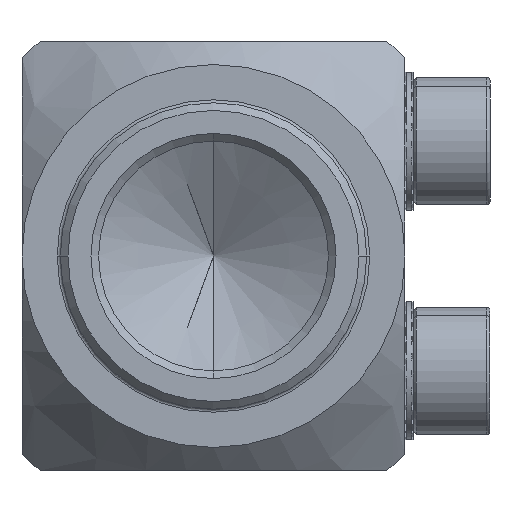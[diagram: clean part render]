
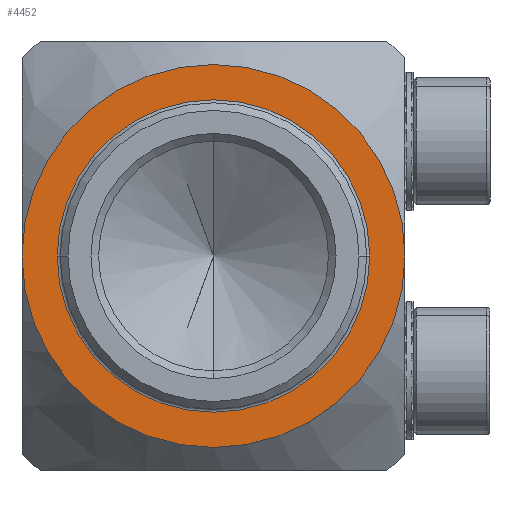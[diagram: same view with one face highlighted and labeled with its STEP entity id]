
A CAD part, front view. The second image highlights one B-rep face of the part: STEP entity #4452.
In plain terms, the highlighted planar face has unit normal (0, -1, 0).
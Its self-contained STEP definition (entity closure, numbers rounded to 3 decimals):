
#271 = DIRECTION ( 'NONE',  ( -1., 0., 0. ) ) ;
#304 = CARTESIAN_POINT ( 'NONE',  ( -12.5, 100., 0. ) ) ;
#654 = CARTESIAN_POINT ( 'NONE',  ( 0., 100., 0. ) ) ;
#1362 = DIRECTION ( 'NONE',  ( -1., 0., 0. ) ) ;
#1423 = ORIENTED_EDGE ( 'NONE', *, *, #4490, .T. ) ;
#1562 = CARTESIAN_POINT ( 'NONE',  ( -10.2, 100., 0. ) ) ;
#2416 = FACE_BOUND ( 'NONE', #6546, .T. ) ;
#2680 = VERTEX_POINT ( 'NONE', #5752 ) ;
#2714 = ORIENTED_EDGE ( 'NONE', *, *, #8371, .T. ) ;
#2859 = DIRECTION ( 'NONE',  ( 0., 1., 0. ) ) ;
#2952 = ORIENTED_EDGE ( 'NONE', *, *, #8425, .T. ) ;
#3122 = DIRECTION ( 'NONE',  ( -1., 0., 0. ) ) ;
#3228 = CARTESIAN_POINT ( 'NONE',  ( 10.2, 100., 0. ) ) ;
#3820 = PLANE ( 'NONE',  #4774 ) ;
#3895 = CARTESIAN_POINT ( 'NONE',  ( 0., 100., 0. ) ) ;
#4452 = ADVANCED_FACE ( 'NONE', ( #2416, #6020 ), #3820, .F. ) ;
#4490 = EDGE_CURVE ( 'NONE', #2680, #6553, #7699, .T. ) ;
#4598 = DIRECTION ( 'NONE',  ( 0., -1., 0. ) ) ;
#4612 = DIRECTION ( 'NONE',  ( -1., 0., 0. ) ) ;
#4774 = AXIS2_PLACEMENT_3D ( 'NONE', #5980, #7432, #3122 ) ;
#4908 = CIRCLE ( 'NONE', #8953, 10.2 ) ;
#5252 = AXIS2_PLACEMENT_3D ( 'NONE', #8915, #4598, #271 ) ;
#5485 = CIRCLE ( 'NONE', #8827, 12.5 ) ;
#5706 = DIRECTION ( 'NONE',  ( 0., 1., 0. ) ) ;
#5752 = CARTESIAN_POINT ( 'NONE',  ( 12.5, 100., 0. ) ) ;
#5980 = CARTESIAN_POINT ( 'NONE',  ( 10., 100., 0. ) ) ;
#6020 = FACE_OUTER_BOUND ( 'NONE', #6957, .T. ) ;
#6546 = EDGE_LOOP ( 'NONE', ( #2952, #2714 ) ) ;
#6553 = VERTEX_POINT ( 'NONE', #304 ) ;
#6957 = EDGE_LOOP ( 'NONE', ( #8446, #1423 ) ) ;
#7006 = AXIS2_PLACEMENT_3D ( 'NONE', #654, #5706, #1362 ) ;
#7177 = CARTESIAN_POINT ( 'NONE',  ( 0., 100., 0. ) ) ;
#7432 = DIRECTION ( 'NONE',  ( 0., 1., 0. ) ) ;
#7699 = CIRCLE ( 'NONE', #5252, 12.5 ) ;
#7897 = DIRECTION ( 'NONE',  ( -1., 0., 0. ) ) ;
#8120 = EDGE_CURVE ( 'NONE', #6553, #2680, #5485, .T. ) ;
#8173 = VERTEX_POINT ( 'NONE', #3228 ) ;
#8371 = EDGE_CURVE ( 'NONE', #8173, #8635, #8738, .T. ) ;
#8425 = EDGE_CURVE ( 'NONE', #8635, #8173, #4908, .T. ) ;
#8446 = ORIENTED_EDGE ( 'NONE', *, *, #8120, .T. ) ;
#8635 = VERTEX_POINT ( 'NONE', #1562 ) ;
#8738 = CIRCLE ( 'NONE', #7006, 10.2 ) ;
#8827 = AXIS2_PLACEMENT_3D ( 'NONE', #3895, #8928, #4612 ) ;
#8915 = CARTESIAN_POINT ( 'NONE',  ( 0., 100., 0. ) ) ;
#8928 = DIRECTION ( 'NONE',  ( 0., -1., 0. ) ) ;
#8953 = AXIS2_PLACEMENT_3D ( 'NONE', #7177, #2859, #7897 ) ;
